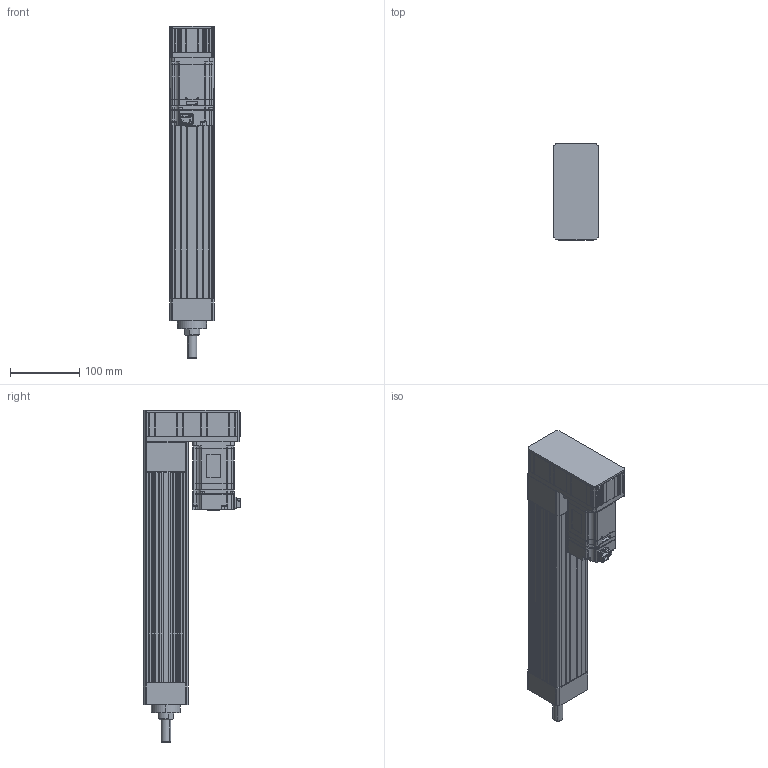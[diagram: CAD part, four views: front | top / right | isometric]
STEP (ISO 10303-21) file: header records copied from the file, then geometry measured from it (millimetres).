
FILE_DESCRIPTION (( 'STEP AP203' ), '1' );
FILE_NAME ('ANS065R-P200-05(10)(20)-W40-M.STEP', '2019-03-03T04:36:30', ( 'user' ), ( '' ), 'SwSTEP 2.0', 'SolidWorks 2013', '' );
FILE_SCHEMA (( 'CONFIG_CONTROL_DESIGN' ));
Length unit declared in the file: millimetre
Products named in the file (4): ANS065 ROD ST200-M; ANS065R-P200-05(10)(20)-W40-M; ANS065R P200 VER2; sgmjv_04a_a21
Assembly tree (3 placements, depth 2):
  ANS065R-P200-05(10)(20)-W40-M
    ANS065R P200 VER2
    sgmjv_04a_a21
    ANS065 ROD ST200-M
Bounding box: 65 x 140.3 x 480 mm (x, y, z)
Volume: 1456641.7 mm3; surface area: 343327.8 mm2
Topology: 3 solids, 7 shells, 1283 faces, 3465 edges, 2248 vertices
Faces by surface type: plane 817, cylinder 380, cone 86
Entity records: 40363 total; most frequent: CARTESIAN_POINT 7232, ORIENTED_EDGE 6898, DIRECTION 6761, EDGE_CURVE 3449, LINE 2567, VECTOR 2567, VERTEX_POINT 2248, AXIS2_PLACEMENT_3D 2097
